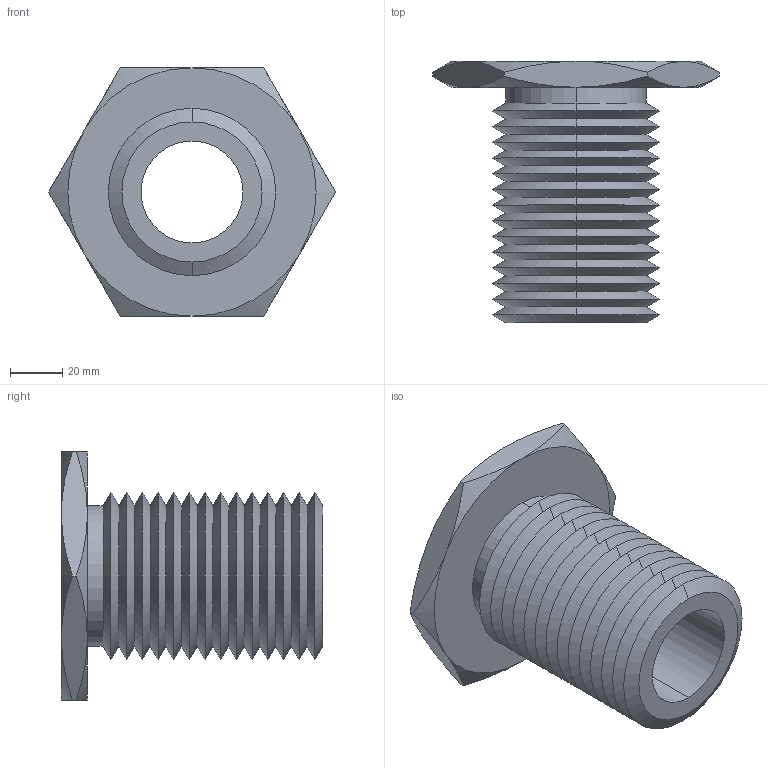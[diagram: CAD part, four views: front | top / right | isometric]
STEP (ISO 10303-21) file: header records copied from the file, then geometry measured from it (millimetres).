
FILE_DESCRIPTION (( 'STEP AP203' ), '1' );
FILE_NAME ('63302.W0064_M39x4.step', '2013-12-08T11:26:33', ( 'User' ), ( '' ), 'SwSTEP 2.0', 'SolidWorks 2009', '' );
FILE_SCHEMA (( 'CONFIG_CONTROL_DESIGN' ));
Length unit declared in the file: millimetre
Products named in the file (1): 63302.W0064_M39x4
Bounding box: 109.7 x 100 x 95 mm (x, y, z)
Volume: 198056.6 mm3; surface area: 59833.2 mm2
Topology: 1 solids, 1 shells, 83 faces, 170 edges, 90 vertices
Faces by surface type: cone 70, plane 9, cylinder 4
Entity records: 2371 total; most frequent: CARTESIAN_POINT 560, DIRECTION 392, ORIENTED_EDGE 340, EDGE_CURVE 170, AXIS2_PLACEMENT_3D 162, VERTEX_POINT 90, EDGE_LOOP 86, ADVANCED_FACE 83
